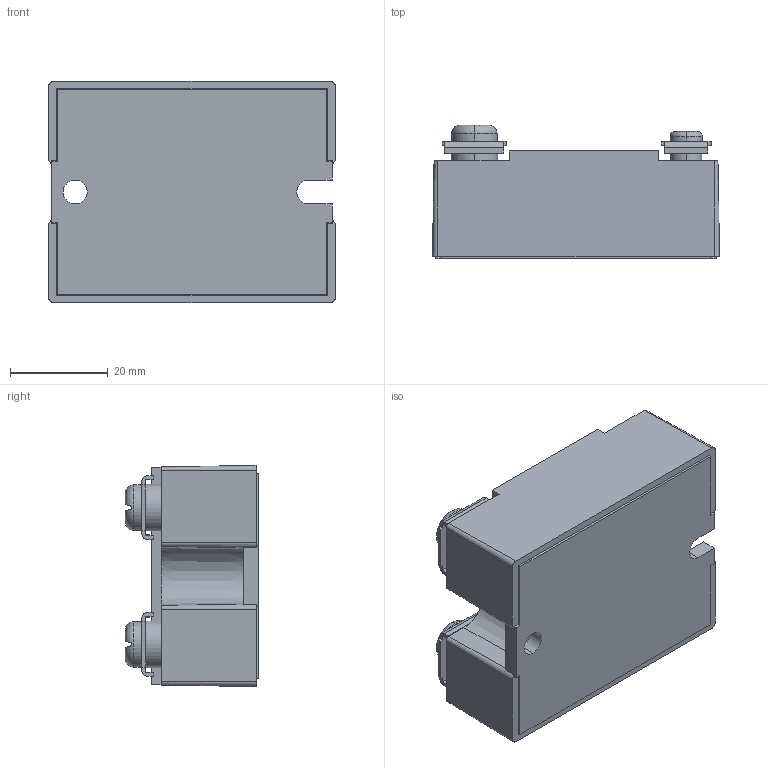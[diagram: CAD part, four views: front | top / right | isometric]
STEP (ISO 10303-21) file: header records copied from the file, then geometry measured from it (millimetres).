
FILE_DESCRIPTION (( 'STEP AP214' ), '1' );
FILE_NAME ('S1 STD.STEP', '2011-07-02T17:38:10', ( 'LALo' ), ( 'Edi Foundation' ), 'SwSTEP 2.0', 'SolidWorks 2011', '' );
FILE_SCHEMA (( 'AUTOMOTIVE_DESIGN' ));
Length unit declared in the file: inch
Products named in the file (1): S1 STD
Bounding box: 58.7 x 27.23 x 45.24 mm (x, y, z)
Volume: 20511.1 mm3; surface area: 21291.3 mm2
Topology: 1 solids, 2 shells, 410 faces, 1102 edges, 726 vertices
Faces by surface type: plane 309, cylinder 51, cone 40, torus 10
Entity records: 15851 total; most frequent: CARTESIAN_POINT 2523, ORIENTED_EDGE 2204, DIRECTION 2110, EDGE_CURVE 1102, VECTOR 812, LINE 812, VERTEX_POINT 726, AXIS2_PLACEMENT_3D 649
